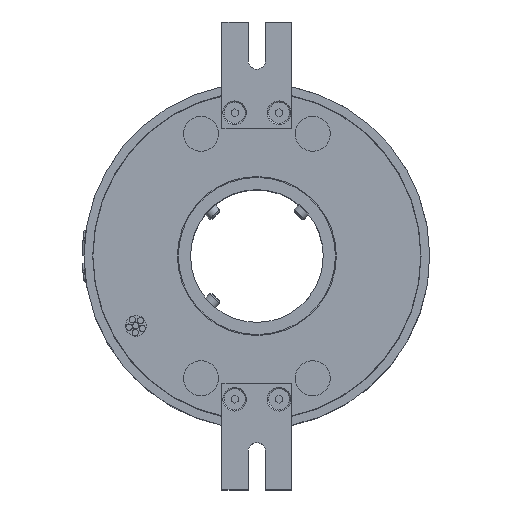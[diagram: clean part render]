
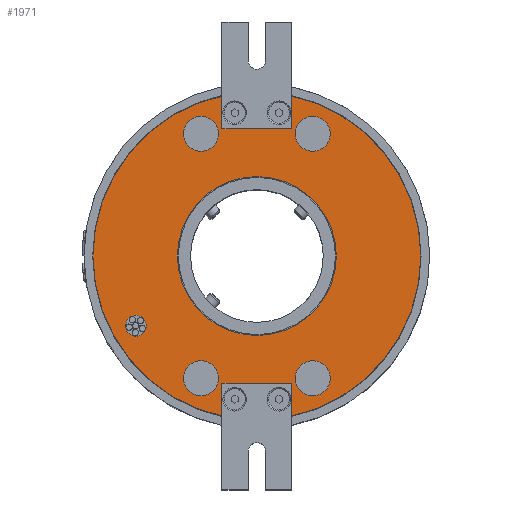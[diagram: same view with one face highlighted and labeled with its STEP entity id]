
A CAD part, top view. The second image highlights one B-rep face of the part: STEP entity #1971.
In plain terms, the highlighted planar face has unit normal (0, 0, 1).
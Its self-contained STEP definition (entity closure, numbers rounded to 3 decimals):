
#249=FACE_BOUND('',#5033,.T.);
#250=FACE_BOUND('',#5034,.T.);
#251=FACE_BOUND('',#5035,.T.);
#252=FACE_BOUND('',#5036,.T.);
#253=FACE_BOUND('',#5037,.T.);
#254=FACE_BOUND('',#5038,.T.);
#255=FACE_BOUND('',#5039,.T.);
#480=CIRCLE('',#16782,46.95);
#481=CIRCLE('',#16783,46.95);
#483=CIRCLE('',#16786,22.75);
#485=CIRCLE('',#16789,5.);
#487=CIRCLE('',#16792,5.);
#489=CIRCLE('',#16795,5.);
#491=CIRCLE('',#16798,5.);
#493=CIRCLE('',#16801,3.);
#903=PLANE('',#16803);
#1140=LINE('',#31056,#3202);
#1144=LINE('',#31064,#3206);
#1148=LINE('',#31071,#3210);
#1202=LINE('',#31206,#3264);
#1206=LINE('',#31214,#3268);
#1210=LINE('',#31221,#3272);
#1971=ADVANCED_FACE('',(#249,#250,#251,#252,#253,#254,#255),#903,.T.);
#3202=VECTOR('',#18185,1.);
#3206=VECTOR('',#18191,1.);
#3210=VECTOR('',#18197,1.);
#3264=VECTOR('',#18327,1.);
#3268=VECTOR('',#18333,1.);
#3272=VECTOR('',#18339,1.);
#5033=EDGE_LOOP('',(#8354));
#5034=EDGE_LOOP('',(#8355));
#5035=EDGE_LOOP('',(#8356));
#5036=EDGE_LOOP('',(#8357));
#5037=EDGE_LOOP('',(#8358));
#5038=EDGE_LOOP('',(#8359));
#5039=EDGE_LOOP('',(#8360,#8361,#8362,#8363,#8364,#8365,#8366,#8367));
#8354=ORIENTED_EDGE('',*,*,#13523,.F.);
#8355=ORIENTED_EDGE('',*,*,#13521,.T.);
#8356=ORIENTED_EDGE('',*,*,#13519,.T.);
#8357=ORIENTED_EDGE('',*,*,#13517,.T.);
#8358=ORIENTED_EDGE('',*,*,#13515,.T.);
#8359=ORIENTED_EDGE('',*,*,#13513,.F.);
#8360=ORIENTED_EDGE('',*,*,#13387,.F.);
#8361=ORIENTED_EDGE('',*,*,#13510,.F.);
#8362=ORIENTED_EDGE('',*,*,#13450,.F.);
#8363=ORIENTED_EDGE('',*,*,#13454,.F.);
#8364=ORIENTED_EDGE('',*,*,#13458,.F.);
#8365=ORIENTED_EDGE('',*,*,#13511,.F.);
#8366=ORIENTED_EDGE('',*,*,#13379,.F.);
#8367=ORIENTED_EDGE('',*,*,#13383,.F.);
#11249=VERTEX_POINT('',#31055);
#11250=VERTEX_POINT('',#31057);
#11252=VERTEX_POINT('',#31063);
#11254=VERTEX_POINT('',#31070);
#11297=VERTEX_POINT('',#31205);
#11298=VERTEX_POINT('',#31207);
#11300=VERTEX_POINT('',#31213);
#11302=VERTEX_POINT('',#31220);
#11338=VERTEX_POINT('',#31342);
#11340=VERTEX_POINT('',#31347);
#11342=VERTEX_POINT('',#31352);
#11344=VERTEX_POINT('',#31357);
#11346=VERTEX_POINT('',#31362);
#11348=VERTEX_POINT('',#31367);
#13379=EDGE_CURVE('',#11249,#11250,#1140,.T.);
#13383=EDGE_CURVE('',#11252,#11249,#1144,.T.);
#13387=EDGE_CURVE('',#11254,#11252,#1148,.T.);
#13450=EDGE_CURVE('',#11297,#11298,#1202,.T.);
#13454=EDGE_CURVE('',#11300,#11297,#1206,.T.);
#13458=EDGE_CURVE('',#11302,#11300,#1210,.T.);
#13510=EDGE_CURVE('',#11298,#11254,#480,.T.);
#13511=EDGE_CURVE('',#11250,#11302,#481,.T.);
#13513=EDGE_CURVE('',#11338,#11338,#483,.T.);
#13515=EDGE_CURVE('',#11340,#11340,#485,.T.);
#13517=EDGE_CURVE('',#11342,#11342,#487,.T.);
#13519=EDGE_CURVE('',#11344,#11344,#489,.T.);
#13521=EDGE_CURVE('',#11346,#11346,#491,.T.);
#13523=EDGE_CURVE('',#11348,#11348,#493,.T.);
#16782=AXIS2_PLACEMENT_3D('',#31336,#18458,#18459);
#16783=AXIS2_PLACEMENT_3D('',#31337,#18460,#18461);
#16786=AXIS2_PLACEMENT_3D('',#31341,#18466,#18467);
#16789=AXIS2_PLACEMENT_3D('',#31346,#18472,#18473);
#16792=AXIS2_PLACEMENT_3D('',#31351,#18478,#18479);
#16795=AXIS2_PLACEMENT_3D('',#31356,#18484,#18485);
#16798=AXIS2_PLACEMENT_3D('',#31361,#18490,#18491);
#16801=AXIS2_PLACEMENT_3D('',#31366,#18496,#18497);
#16803=AXIS2_PLACEMENT_3D('',#31369,#18500,#18501);
#18185=DIRECTION('',(0.,1.,0.));
#18191=DIRECTION('',(1.,0.,0.));
#18197=DIRECTION('',(0.,-1.,0.));
#18327=DIRECTION('',(0.,-1.,0.));
#18333=DIRECTION('',(-1.,0.,0.));
#18339=DIRECTION('',(0.,1.,0.));
#18458=DIRECTION('',(0.,0.,-1.));
#18459=DIRECTION('',(1.,0.,0.));
#18460=DIRECTION('',(0.,0.,-1.));
#18461=DIRECTION('',(1.,0.,0.));
#18466=DIRECTION('',(0.,0.,1.));
#18467=DIRECTION('',(1.,0.,0.));
#18472=DIRECTION('',(0.,0.,-1.));
#18473=DIRECTION('',(1.,0.,0.));
#18478=DIRECTION('',(0.,0.,-1.));
#18479=DIRECTION('',(-1.,0.,0.));
#18484=DIRECTION('',(0.,0.,-1.));
#18485=DIRECTION('',(1.,0.,0.));
#18490=DIRECTION('',(0.,0.,-1.));
#18491=DIRECTION('',(-1.,0.,0.));
#18496=DIRECTION('',(0.,0.,1.));
#18497=DIRECTION('',(-1.,0.,0.));
#18500=DIRECTION('',(0.,0.,1.));
#18501=DIRECTION('',(1.,0.,0.));
#31055=CARTESIAN_POINT('',(10.,36.5,74.5));
#31056=CARTESIAN_POINT('',(10.,51.75,74.5));
#31057=CARTESIAN_POINT('',(10.,45.873,74.5));
#31063=CARTESIAN_POINT('',(-10.,36.5,74.5));
#31064=CARTESIAN_POINT('',(0.,36.5,74.5));
#31070=CARTESIAN_POINT('',(-10.,45.873,74.5));
#31071=CARTESIAN_POINT('',(-10.,51.75,74.5));
#31205=CARTESIAN_POINT('',(-10.,-36.5,74.5));
#31206=CARTESIAN_POINT('',(-10.,-51.75,74.5));
#31207=CARTESIAN_POINT('',(-10.,-45.873,74.5));
#31213=CARTESIAN_POINT('',(10.,-36.5,74.5));
#31214=CARTESIAN_POINT('',(0.,-36.5,74.5));
#31220=CARTESIAN_POINT('',(10.,-45.873,74.5));
#31221=CARTESIAN_POINT('',(10.,-51.75,74.5));
#31336=CARTESIAN_POINT('',(0.,0.,74.5));
#31337=CARTESIAN_POINT('',(0.,0.,74.5));
#31341=CARTESIAN_POINT('',(0.,0.,74.5));
#31342=CARTESIAN_POINT('',(22.75,0.,74.5));
#31346=CARTESIAN_POINT('',(16.,35.,74.5));
#31347=CARTESIAN_POINT('',(21.,35.,74.5));
#31351=CARTESIAN_POINT('',(-16.,-35.,74.5));
#31352=CARTESIAN_POINT('',(-21.,-35.,74.5));
#31356=CARTESIAN_POINT('',(-16.,35.,74.5));
#31357=CARTESIAN_POINT('',(-11.,35.,74.5));
#31361=CARTESIAN_POINT('',(16.,-35.,74.5));
#31362=CARTESIAN_POINT('',(11.,-35.,74.5));
#31366=CARTESIAN_POINT('',(-34.641,-20.,74.5));
#31367=CARTESIAN_POINT('',(-37.641,-20.,74.5));
#31369=CARTESIAN_POINT('',(0.,0.,74.5));
